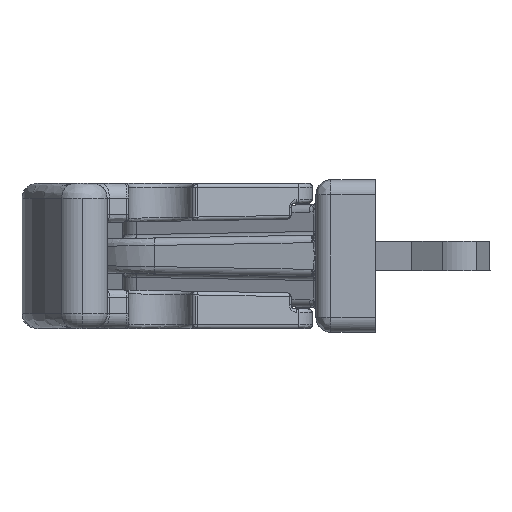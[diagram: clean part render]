
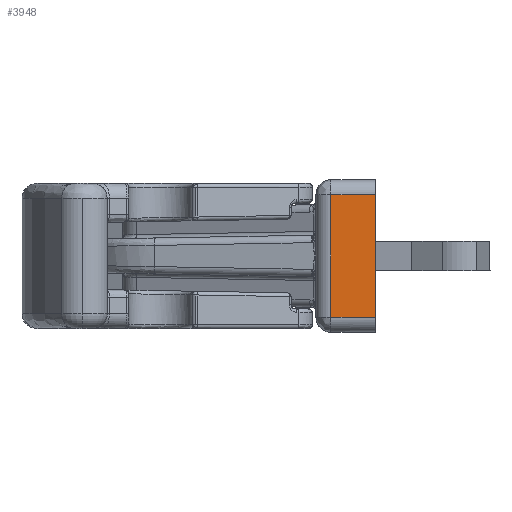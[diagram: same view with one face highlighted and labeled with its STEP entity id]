
A CAD part, left-side view. The second image highlights one B-rep face of the part: STEP entity #3948.
In plain terms, the highlighted planar face has unit normal (-1, 0, 0).
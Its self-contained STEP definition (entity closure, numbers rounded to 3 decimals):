
#892 = VECTOR ( 'NONE', #9138, 1000. ) ;
#1200 = VERTEX_POINT ( 'NONE', #12813 ) ;
#1413 = CARTESIAN_POINT ( 'NONE',  ( -60., 6., -8.25 ) ) ;
#1470 = ORIENTED_EDGE ( 'NONE', *, *, #17456, .T. ) ;
#1599 = EDGE_CURVE ( 'NONE', #18761, #3711, #3562, .T. ) ;
#2231 = ORIENTED_EDGE ( 'NONE', *, *, #19303, .T. ) ;
#2813 = CARTESIAN_POINT ( 'NONE',  ( -60., 0., -8.25 ) ) ;
#3204 = VECTOR ( 'NONE', #6571, 1000. ) ;
#3445 = ORIENTED_EDGE ( 'NONE', *, *, #16643, .T. ) ;
#3562 = LINE ( 'NONE', #6668, #15397 ) ;
#3711 = VERTEX_POINT ( 'NONE', #19519 ) ;
#3948 = ADVANCED_FACE ( 'NONE', ( #12408 ), #15707, .T. ) ;
#4740 = VERTEX_POINT ( 'NONE', #12230 ) ;
#4928 = ORIENTED_EDGE ( 'NONE', *, *, #1599, .F. ) ;
#5222 = CARTESIAN_POINT ( 'NONE',  ( -60., 0., 8.25 ) ) ;
#6571 = DIRECTION ( 'NONE',  ( 0., 1., 0. ) ) ;
#6668 = CARTESIAN_POINT ( 'NONE',  ( -60., 6., -10.456 ) ) ;
#8833 = DIRECTION ( 'NONE',  ( 0., 0., 1. ) ) ;
#9138 = DIRECTION ( 'NONE',  ( 0., -1., 0. ) ) ;
#12230 = CARTESIAN_POINT ( 'NONE',  ( -60., 0., -8.25 ) ) ;
#12408 = FACE_OUTER_BOUND ( 'NONE', #17007, .T. ) ;
#12813 = CARTESIAN_POINT ( 'NONE',  ( -60., 0., 8.25 ) ) ;
#13501 = DIRECTION ( 'NONE',  ( -1., 0., 0. ) ) ;
#14112 = DIRECTION ( 'NONE',  ( 0., 0., 1. ) ) ;
#14560 = CARTESIAN_POINT ( 'NONE',  ( -60., 0., -10.25 ) ) ;
#14629 = DIRECTION ( 'NONE',  ( 0., 0., 1. ) ) ;
#14809 = VECTOR ( 'NONE', #14112, 1000. ) ;
#14965 = AXIS2_PLACEMENT_3D ( 'NONE', #14560, #13501, #8833 ) ;
#15397 = VECTOR ( 'NONE', #14629, 1000. ) ;
#15707 = PLANE ( 'NONE',  #14965 ) ;
#15768 = LINE ( 'NONE', #15970, #14809 ) ;
#15881 = LINE ( 'NONE', #5222, #3204 ) ;
#15970 = CARTESIAN_POINT ( 'NONE',  ( -60., 0., -10.25 ) ) ;
#16643 = EDGE_CURVE ( 'NONE', #1200, #3711, #15881, .T. ) ;
#17007 = EDGE_LOOP ( 'NONE', ( #3445, #4928, #1470, #2231 ) ) ;
#17456 = EDGE_CURVE ( 'NONE', #18761, #4740, #18507, .T. ) ;
#18507 = LINE ( 'NONE', #2813, #892 ) ;
#18761 = VERTEX_POINT ( 'NONE', #1413 ) ;
#19303 = EDGE_CURVE ( 'NONE', #4740, #1200, #15768, .T. ) ;
#19519 = CARTESIAN_POINT ( 'NONE',  ( -60., 6., 8.25 ) ) ;
